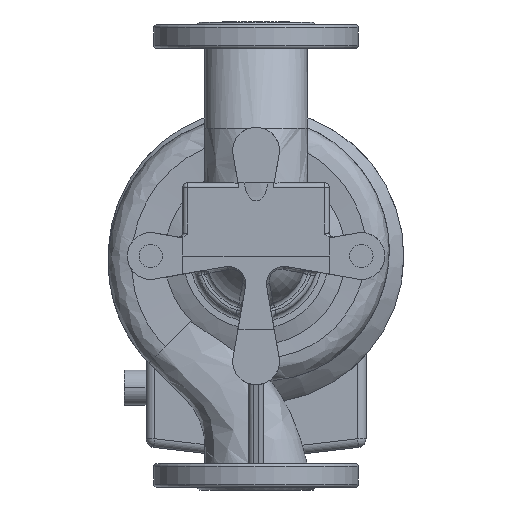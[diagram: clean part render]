
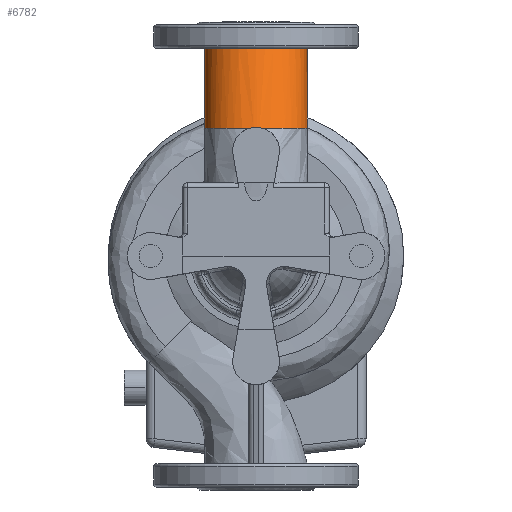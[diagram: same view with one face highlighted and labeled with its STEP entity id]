
A CAD part, front view. The second image highlights one B-rep face of the part: STEP entity #6782.
In plain terms, the highlighted free-form (B-spline) face has degree [3, 1] with [7, 2] control points.
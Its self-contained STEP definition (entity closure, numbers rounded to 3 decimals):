
#60 = CARTESIAN_POINT ( 'NONE',  ( -35., 0., 142. ) ) ;
#322 = CARTESIAN_POINT ( 'NONE',  ( 35., 70., 142. ) ) ;
#598 = CARTESIAN_POINT ( 'NONE',  ( 0., -38.189, 87.461 ) ) ;
#887 = CIRCLE ( 'NONE', #14712, 35. ) ;
#945 = ORIENTED_EDGE ( 'NONE', *, *, #6450, .T. ) ;
#1184 = EDGE_CURVE ( 'NONE', #5018, #26501, #5351, .T. ) ;
#1491 = ORIENTED_EDGE ( 'NONE', *, *, #22696, .T. ) ;
#1558 = EDGE_CURVE ( 'NONE', #5114, #26501, #887, .T. ) ;
#3538 = DIRECTION ( 'NONE',  ( 0., 0., -1. ) ) ;
#3767 = CARTESIAN_POINT ( 'NONE',  ( -2.768, -72.854, 87.82 ) ) ;
#4383 = CARTESIAN_POINT ( 'NONE',  ( 35., -70., 142. ) ) ;
#4504 = CARTESIAN_POINT ( 'NONE',  ( -35., 70., 142. ) ) ;
#5018 = VERTEX_POINT ( 'NONE', #24664 ) ;
#5114 = VERTEX_POINT ( 'NONE', #26272 ) ;
#5196 = ORIENTED_EDGE ( 'NONE', *, *, #1184, .F. ) ;
#5351 = B_SPLINE_CURVE_WITH_KNOTS ( 'NONE', 1,
 ( #18429, #16281 ),
 .UNSPECIFIED., .F., .F.,
 ( 2, 2 ),
 ( 0., 1. ),
 .UNSPECIFIED. ) ;
#6450 = EDGE_CURVE ( 'NONE', #26217, #5114, #24099, .T. ) ;
#6543 = CARTESIAN_POINT ( 'NONE',  ( 35., -38.189, 87.461 ) ) ;
#6661 = CARTESIAN_POINT ( 'NONE',  ( -35., 31.811, 87.461 ) ) ;
#6724 = CARTESIAN_POINT ( 'NONE',  ( -4.118, -72.946, 87.461 ) ) ;
#6782 = ADVANCED_FACE ( 'NONE', ( #10338 ), #13851, .F. ) ;
#7209 = AXIS2_PLACEMENT_3D ( 'NONE', #598, #8850, #17092 ) ;
#7948 = CARTESIAN_POINT ( 'NONE',  ( 1.38, -72.822, 87.956 ) ) ;
#8693 = CARTESIAN_POINT ( 'NONE',  ( -35., 0., 142. ) ) ;
#8850 = DIRECTION ( 'NONE',  ( 0., 0., -1. ) ) ;
#8896 = CIRCLE ( 'NONE', #15378, 35. ) ;
#8917 = CIRCLE ( 'NONE', #7209, 35. ) ;
#10338 = FACE_OUTER_BOUND ( 'NONE', #24146, .T. ) ;
#10507 = CARTESIAN_POINT ( 'NONE',  ( 2.761, -72.866, 87.775 ) ) ;
#10725 = CARTESIAN_POINT ( 'NONE',  ( -35., -108.189, 87.461 ) ) ;
#10896 = CARTESIAN_POINT ( 'NONE',  ( 3.443, -72.9, 87.641 ) ) ;
#12388 = CARTESIAN_POINT ( 'NONE',  ( 35., -38.189, 87.461 ) ) ;
#12425 = DIRECTION ( 'NONE',  ( 0., 0., -1. ) ) ;
#12617 = B_SPLINE_CURVE_WITH_KNOTS ( 'NONE', 3,
 ( #16053, #3767, #18208, #26423, #7948, #10507, #10896, #16720 ),
 .UNSPECIFIED., .F., .F.,
 ( 4, 2, 2, 4 ),
 ( 0., 0.004, 0.006, 0.008 ),
 .UNSPECIFIED. ) ;
#12620 = CARTESIAN_POINT ( 'NONE',  ( 35., 0., 142. ) ) ;
#12762 = ORIENTED_EDGE ( 'NONE', *, *, #17233, .F. ) ;
#13851 =( BOUNDED_SURFACE ( )  B_SPLINE_SURFACE ( 3, 1, ( 
 ( #26650, #8693 ),
 ( #6661, #4504 ),
 ( #22869, #322 ),
 ( #6543, #12620 ),
 ( #16534, #4383 ),
 ( #10725, #23125 ),
 ( #18559, #60 ) ),
 .UNSPECIFIED., .T., .F., .F. ) 
 B_SPLINE_SURFACE_WITH_KNOTS ( ( 4, 3, 4 ),
 ( 2, 2 ),
 ( 0., 0.5, 1. ),
 ( 0., 1. ),
 .UNSPECIFIED. ) 
 GEOMETRIC_REPRESENTATION_ITEM ( )  RATIONAL_B_SPLINE_SURFACE ( (
 ( 1., 1.),
 ( 0.333, 0.333),
 ( 0.333, 0.333),
 ( 1., 1.),
 ( 0.333, 0.333),
 ( 0.333, 0.333),
 ( 1., 1.) ) ) 
 REPRESENTATION_ITEM ( '' )  SURFACE ( )  );
#14064 = ORIENTED_EDGE ( 'NONE', *, *, #1558, .T. ) ;
#14146 = CARTESIAN_POINT ( 'NONE',  ( 4.118, -72.946, 87.461 ) ) ;
#14712 = AXIS2_PLACEMENT_3D ( 'NONE', #23781, #3538, #17847 ) ;
#15378 = AXIS2_PLACEMENT_3D ( 'NONE', #16984, #12425, #21039 ) ;
#16053 = CARTESIAN_POINT ( 'NONE',  ( -4.118, -72.946, 87.461 ) ) ;
#16281 = CARTESIAN_POINT ( 'NONE',  ( -35., 0., 142. ) ) ;
#16534 = CARTESIAN_POINT ( 'NONE',  ( 35., -108.189, 87.461 ) ) ;
#16660 = EDGE_CURVE ( 'NONE', #18230, #5018, #8896, .T. ) ;
#16720 = CARTESIAN_POINT ( 'NONE',  ( 4.118, -72.946, 87.461 ) ) ;
#16984 = CARTESIAN_POINT ( 'NONE',  ( 0., -38.189, 87.461 ) ) ;
#17092 = DIRECTION ( 'NONE',  ( -1., 0., 0. ) ) ;
#17233 = EDGE_CURVE ( 'NONE', #26217, #18426, #8917, .T. ) ;
#17331 = CARTESIAN_POINT ( 'NONE',  ( -35., 0., 142. ) ) ;
#17847 = DIRECTION ( 'NONE',  ( -1., 0., 0. ) ) ;
#18208 = CARTESIAN_POINT ( 'NONE',  ( -1.401, -72.812, 87.999 ) ) ;
#18230 = VERTEX_POINT ( 'NONE', #6724 ) ;
#18238 = ORIENTED_EDGE ( 'NONE', *, *, #16660, .F. ) ;
#18426 = VERTEX_POINT ( 'NONE', #14146 ) ;
#18429 = CARTESIAN_POINT ( 'NONE',  ( -35., -38.189, 87.461 ) ) ;
#18559 = CARTESIAN_POINT ( 'NONE',  ( -35., -38.189, 87.461 ) ) ;
#21039 = DIRECTION ( 'NONE',  ( -1., 0., 0. ) ) ;
#22696 = EDGE_CURVE ( 'NONE', #18230, #18426, #12617, .T. ) ;
#22869 = CARTESIAN_POINT ( 'NONE',  ( 35., 31.811, 87.461 ) ) ;
#23125 = CARTESIAN_POINT ( 'NONE',  ( -35., -70., 142. ) ) ;
#23781 = CARTESIAN_POINT ( 'NONE',  ( 0., 0., 142. ) ) ;
#24099 = B_SPLINE_CURVE_WITH_KNOTS ( 'NONE', 1,
 ( #12388, #24926 ),
 .UNSPECIFIED., .F., .F.,
 ( 2, 2 ),
 ( 0., 1. ),
 .UNSPECIFIED. ) ;
#24146 = EDGE_LOOP ( 'NONE', ( #12762, #945, #14064, #5196, #18238, #1491 ) ) ;
#24664 = CARTESIAN_POINT ( 'NONE',  ( -35., -38.189, 87.461 ) ) ;
#24926 = CARTESIAN_POINT ( 'NONE',  ( 35., 0., 142. ) ) ;
#26002 = CARTESIAN_POINT ( 'NONE',  ( 35., -38.189, 87.461 ) ) ;
#26217 = VERTEX_POINT ( 'NONE', #26002 ) ;
#26272 = CARTESIAN_POINT ( 'NONE',  ( 35., 0., 142. ) ) ;
#26423 = CARTESIAN_POINT ( 'NONE',  ( 0.679, -72.811, 88.001 ) ) ;
#26501 = VERTEX_POINT ( 'NONE', #17331 ) ;
#26650 = CARTESIAN_POINT ( 'NONE',  ( -35., -38.189, 87.461 ) ) ;
